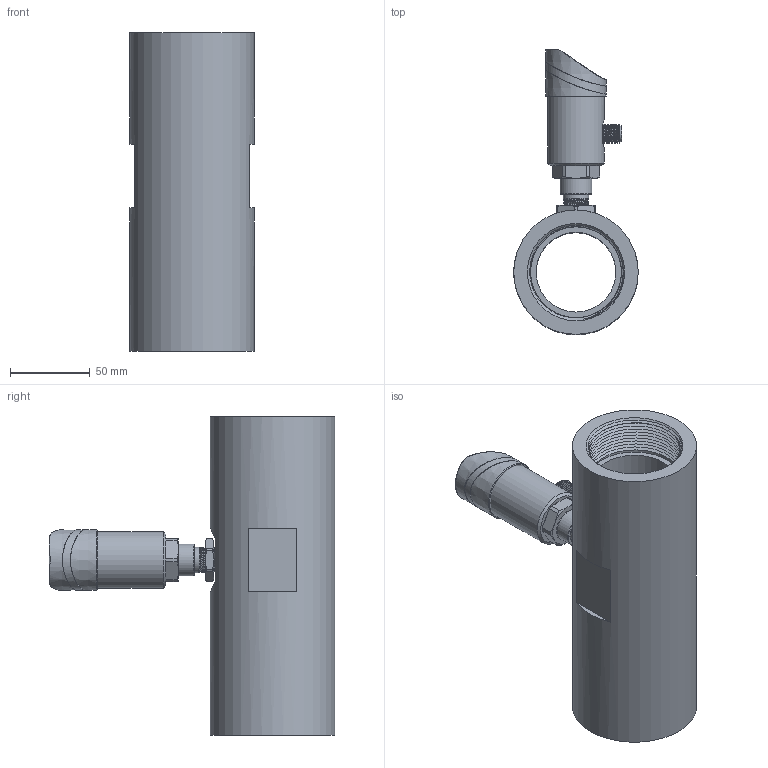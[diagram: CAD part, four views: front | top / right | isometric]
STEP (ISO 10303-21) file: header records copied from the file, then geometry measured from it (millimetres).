
FILE_DESCRIPTION( (''), '2;1');
FILE_NAME( 'QTKE_DN50_female-thread.step', '2024-10-15T13:38:14+08:00', (''), (''), '', '', '');
FILE_SCHEMA (('AUTOMOTIVE_DESIGN { 1 0 10303 214 3 1 1 1 }'));
Length unit declared in the file: millimetre
Products named in the file (1): QTKE DN50_female-thread
Bounding box: 78 x 179 x 200 mm (x, y, z)
Volume: 580776.3 mm3; surface area: 123737.6 mm2
Topology: 5 solids, 6 shells, 867 faces, 2284 edges, 1495 vertices
Faces by surface type: plane 405, extrusion 141, cylinder 132, bspline 76, cone 70, torus 32, sphere 11
Full cylindrical faces by diameter (mm): 1.689 x1, 2.7 x3, 12 x1, 15 x1, 15.9 x1, 16.5 x1, 20 x1, 23 x3, 26 x5, 35.5 x1, 37.001 x1, 50 x1, 57 x1, 78 x1
Entity records: 39132 total; most frequent: CARTESIAN_POINT 17616, ORIENTED_EDGE 4372, DIRECTION 3428, EDGE_CURVE 2186, VERTEX_POINT 1455, VECTOR 1340, LINE 1199, AXIS2_PLACEMENT_3D 1044
